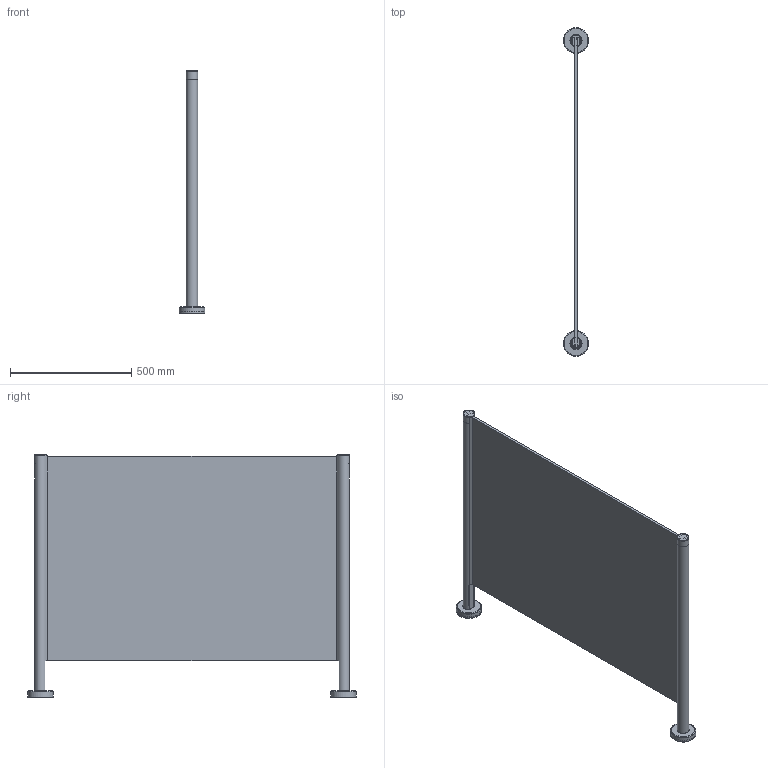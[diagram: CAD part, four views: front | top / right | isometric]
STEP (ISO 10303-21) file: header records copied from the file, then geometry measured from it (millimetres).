
FILE_DESCRIPTION(/* description */ ('Unknown'),/* implementation_level */ '2;1');
FILE_NAME(/* name */ '55870014_00',/* time_stamp */ '2023-03-13T11:16:17+01:00',/* author */ ('Unknown'),/* organization */ ('Unknown'),/* preprocessor_version */ 'ST-DEVELOPER v18.102',/* originating_system */ 'Solid Edge',/* authorisation */ 'Unknown');
FILE_SCHEMA (('AUTOMOTIVE_DESIGN {1 0 10303 214 3 1 1}'));
Length unit declared in the file: millimetre
Products named in the file (9): 55870014; 20500007; 20500007a; 20500007b; 20500007c; 20500007d; 20500007g; 20500007e; 20160189
Assembly tree (9 placements, depth 3):
  55870014
    20500007  x2
      20500007a
      20500007b
      20500007c
      20500007d
      20500007g
      20500007e
    20160189
Bounding box: 105 x 1356.7 x 1000 mm (x, y, z)
Volume: 12492299.1 mm3; surface area: 3464546.4 mm2
Topology: 13 solids, 13 shells, 280 faces, 690 edges, 448 vertices
Faces by surface type: plane 160, cylinder 108, bspline 8, torus 4
Full cylindrical faces by diameter (mm): 48.3 x2, 101 x2, 105 x2
Entity records: 4515 total; most frequent: CARTESIAN_POINT 835, DIRECTION 738, ORIENTED_EDGE 692, EDGE_CURVE 346, AXIS2_PLACEMENT_3D 251, LINE 236, VECTOR 236, VERTEX_POINT 228
